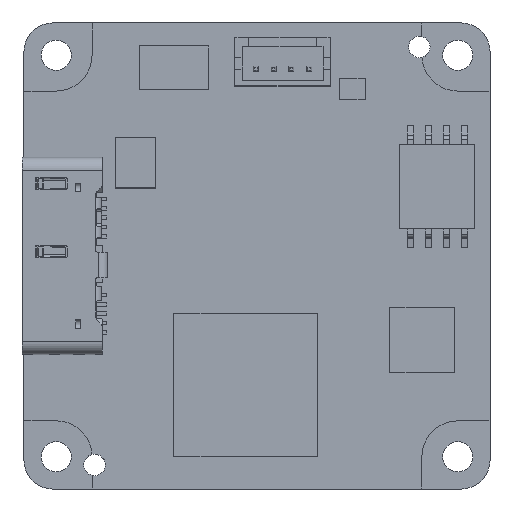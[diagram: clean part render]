
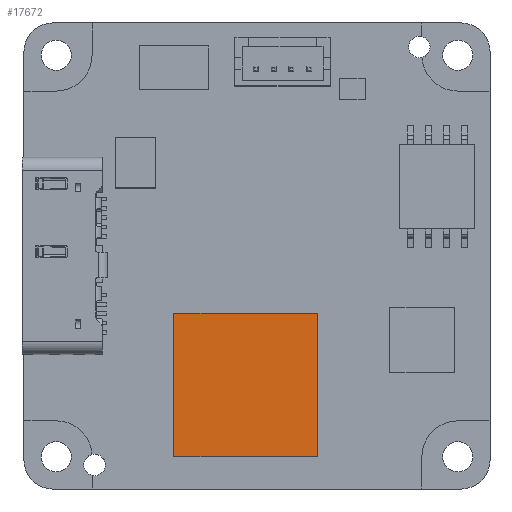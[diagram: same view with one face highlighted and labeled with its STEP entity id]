
A CAD part, top view. The second image highlights one B-rep face of the part: STEP entity #17672.
In plain terms, the highlighted planar face has unit normal (0, 0, 1).
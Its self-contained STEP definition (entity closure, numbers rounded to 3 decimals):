
#3125 = LINE ( 'NONE', #16213, #28520 ) ;
#3523 = DIRECTION ( 'NONE',  ( 1., 0., 0. ) ) ;
#3739 = DIRECTION ( 'NONE',  ( 0., 0., 1. ) ) ;
#3856 = CARTESIAN_POINT ( 'NONE',  ( 297.478, 35.034, 33.599 ) ) ;
#3950 = EDGE_CURVE ( 'NONE', #6071, #31076, #3125, .T. ) ;
#4104 = EDGE_CURVE ( 'NONE', #31076, #15924, #12613, .T. ) ;
#4302 = EDGE_CURVE ( 'NONE', #15924, #31069, #31480, .T. ) ;
#4353 = EDGE_CURVE ( 'NONE', #31069, #6071, #30020, .T. ) ;
#6071 = VERTEX_POINT ( 'NONE', #20415 ) ;
#6207 = CARTESIAN_POINT ( 'NONE',  ( -14.744, 2.695, 33.599 ) ) ;
#8763 = DIRECTION ( 'NONE',  ( 1., 0., 0. ) ) ;
#8777 = CARTESIAN_POINT ( 'NONE',  ( -4.744, -7.305, 33.599 ) ) ;
#9669 = DIRECTION ( 'NONE',  ( 0., -1., 0. ) ) ;
#9700 = CARTESIAN_POINT ( 'NONE',  ( -14.744, -7.305, 33.599 ) ) ;
#12211 = VECTOR ( 'NONE', #9669, 1000. ) ;
#12613 = LINE ( 'NONE', #12771, #30391 ) ;
#12771 = CARTESIAN_POINT ( 'NONE',  ( -4.744, 2.695, 33.599 ) ) ;
#12777 = DIRECTION ( 'NONE',  ( -1., 0., 0. ) ) ;
#14381 = ORIENTED_EDGE ( 'NONE', *, *, #4104, .T. ) ;
#14663 = PLANE ( 'NONE',  #30331 ) ;
#15359 = FACE_OUTER_BOUND ( 'NONE', #23600, .T. ) ;
#15876 = DIRECTION ( 'NONE',  ( 0., 1., 0. ) ) ;
#15924 = VERTEX_POINT ( 'NONE', #6207 ) ;
#16213 = CARTESIAN_POINT ( 'NONE',  ( -4.744, -7.305, 33.599 ) ) ;
#17241 = CARTESIAN_POINT ( 'NONE',  ( -4.744, 2.695, 33.599 ) ) ;
#17672 = ADVANCED_FACE ( 'NONE', ( #15359 ), #14663, .T. ) ;
#20415 = CARTESIAN_POINT ( 'NONE',  ( -4.744, -7.305, 33.599 ) ) ;
#22000 = CARTESIAN_POINT ( 'NONE',  ( -14.744, -7.305, 33.599 ) ) ;
#23099 = ORIENTED_EDGE ( 'NONE', *, *, #4353, .T. ) ;
#23519 = VECTOR ( 'NONE', #8763, 1000. ) ;
#23600 = EDGE_LOOP ( 'NONE', ( #30764, #14381, #27300, #23099 ) ) ;
#27300 = ORIENTED_EDGE ( 'NONE', *, *, #4302, .T. ) ;
#28520 = VECTOR ( 'NONE', #15876, 1000. ) ;
#30020 = LINE ( 'NONE', #8777, #23519 ) ;
#30331 = AXIS2_PLACEMENT_3D ( 'NONE', #3856, #3739, #3523 ) ;
#30391 = VECTOR ( 'NONE', #12777, 1000. ) ;
#30764 = ORIENTED_EDGE ( 'NONE', *, *, #3950, .T. ) ;
#31069 = VERTEX_POINT ( 'NONE', #22000 ) ;
#31076 = VERTEX_POINT ( 'NONE', #17241 ) ;
#31480 = LINE ( 'NONE', #9700, #12211 ) ;
